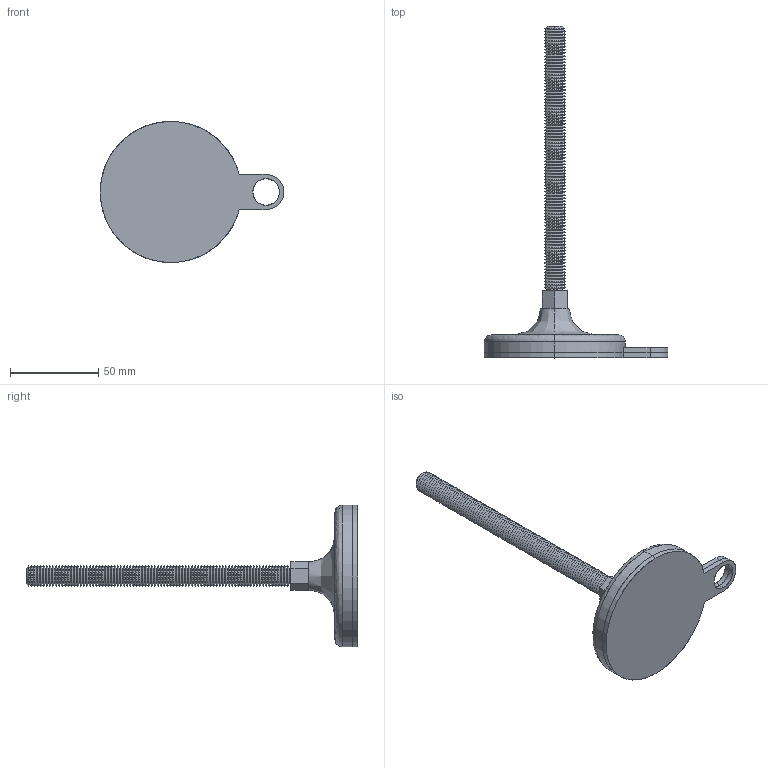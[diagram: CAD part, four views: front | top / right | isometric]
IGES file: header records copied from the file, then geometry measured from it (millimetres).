
Start section: SolidWorks IGES file using analytic representation for surfaces
Global section: file name: C:\Users\liam_\OneDrive\Documents\WORK\Work for WixRoyd\Job Files\J-00026 - Matt Davis CAD - 20191124\04. CAD Drawings\Wixroyd20191124\34704_v2\34704_v2_20191128_IGES\34704.W1202.igs; native system: SolidWorks 2017; preprocessor: SolidWorks 2017; author: liam_; date: 191128.202342; units: millimetre
Bounding box: 104 x 188 x 80 mm (x, y, z)
Surface area: 35351.2 mm2 (no closed solid volume)
Topology: 0 solids, 0 shells, 386 faces, 2164 edges, 2164 vertices
Faces by surface type: revolution 353, bspline 33
